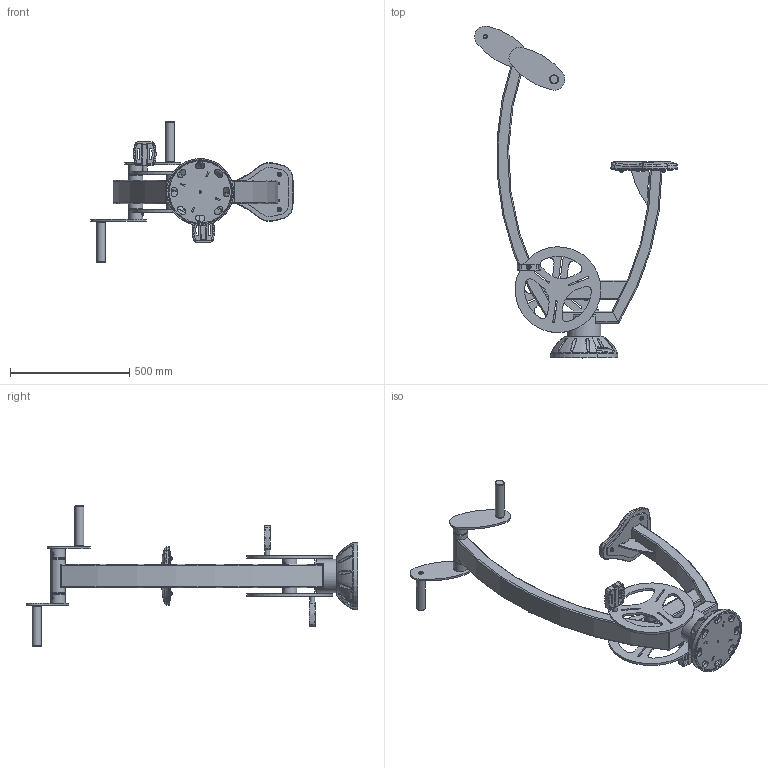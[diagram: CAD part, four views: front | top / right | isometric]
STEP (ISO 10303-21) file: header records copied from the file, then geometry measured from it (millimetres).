
FILE_DESCRIPTION (( 'STEP AP214' ), '1' );
FILE_NAME ('CT0110 - VELO UP-DOWN V1.0.STEP', '2017-08-16T19:45:11', ( '' ), ( '' ), 'SwSTEP 2.0', 'SolidWorks 2016', '' );
FILE_SCHEMA (( 'AUTOMOTIVE_DESIGN' ));
Length unit declared in the file: millimetre
Products named in the file (1): CT0110 - VELO UP-DOWN V1.0
Bounding box: 851.65 x 1393.2 x 591.43 mm (x, y, z)
Surface area: 1883947.5 mm2 (no closed solid volume)
Topology: 0 solids, 101 shells, 734 faces, 2615 edges, 1962 vertices
Faces by surface type: plane 231, cylinder 219, bspline 123, cone 116, torus 41, sphere 4
Full cylindrical faces by diameter (mm): 1.8 x4, 6.5 x3, 10 x1, 10.5 x1, 15.1 x1, 15.3 x2, 18 x7, 20 x4, 22 x2, 33.7 x2, 60 x8, 60.8 x2, 133.7 x1, 139.7 x1, 260 x1, 360 x2
Entity records: 95702 total; most frequent: CARTESIAN_POINT 67423, DIRECTION 3887, ORIENTED_EDGE 3787, EDGE_CURVE 2465, VERTEX_POINT 1918, AXIS2_PLACEMENT_3D 1600, EDGE_LOOP 994, CIRCLE 988
